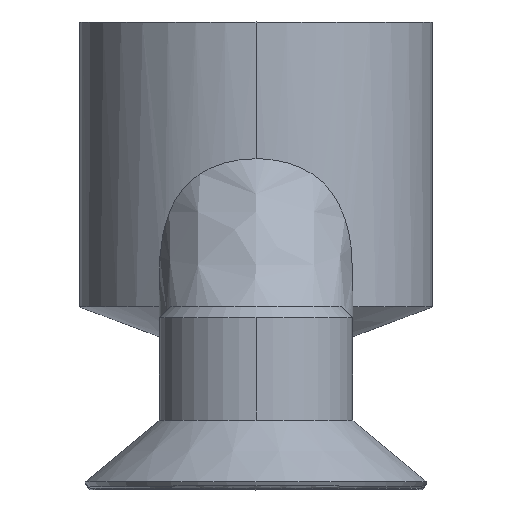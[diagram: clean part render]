
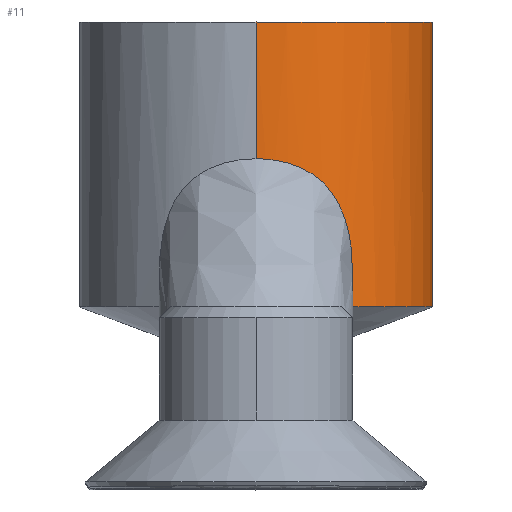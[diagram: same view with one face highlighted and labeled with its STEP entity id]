
A CAD part, top view. The second image highlights one B-rep face of the part: STEP entity #11.
In plain terms, the highlighted cylindrical face has radius 7.75 mm (diameter 15.5 mm), a partial arc.
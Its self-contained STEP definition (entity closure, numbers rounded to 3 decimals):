
#11 = ADVANCED_FACE ( 'NONE', ( #1096 ), #404, .T. ) ;
#36 = VERTEX_POINT ( 'NONE', #908 ) ;
#46 = DIRECTION ( 'NONE',  ( 0., 1., 0. ) ) ;
#76 = B_SPLINE_CURVE_WITH_KNOTS ( 'NONE', 3,
 ( #1015, #1002, #739, #663, #184, #660, #641, #1675, #1692, #1757, #902, #1652, #1649, #1637, #813, #779, #1618, #1601, #1558, #1547 ),
 .UNSPECIFIED., .F., .F.,
 ( 4, 2, 2, 2, 2, 2, 2, 2, 2, 4 ),
 ( 0., 0.002, 0.003, 0.003, 0.004, 0.005, 0.005, 0.006, 0.007, 0.008 ),
 .UNSPECIFIED. ) ;
#85 = DIRECTION ( 'NONE',  ( 0., 0., -1. ) ) ;
#120 = DIRECTION ( 'NONE',  ( 0., -1., 0. ) ) ;
#124 = LINE ( 'NONE', #1157, #409 ) ;
#138 = B_SPLINE_CURVE_WITH_KNOTS ( 'NONE', 3,
 ( #1422, #1431, #1038, #963, #1399, #856, #881, #925, #953, #1097, #1392, #1382, #1371, #1360, #1351, #1347, #1326, #1287, #1242, #819, #875, #909 ),
 .UNSPECIFIED., .F., .F.,
 ( 4, 2, 2, 2, 2, 2, 2, 2, 2, 2, 4 ),
 ( 0., 0.001, 0.001, 0.002, 0.003, 0.003, 0.004, 0.005, 0.006, 0.007, 0.008 ),
 .UNSPECIFIED. ) ;
#184 = CARTESIAN_POINT ( 'NONE',  ( 3.913, 11.877, 6.691 ) ) ;
#230 = AXIS2_PLACEMENT_3D ( 'NONE', #1784, #1564, #1689 ) ;
#238 = CIRCLE ( 'NONE', #922, 7.75 ) ;
#253 = EDGE_CURVE ( 'NONE', #941, #1501, #588, .T. ) ;
#255 = CARTESIAN_POINT ( 'NONE',  ( 4.25, 6.185, 6.481 ) ) ;
#300 = EDGE_CURVE ( 'NONE', #643, #1566, #1271, .T. ) ;
#341 = AXIS2_PLACEMENT_3D ( 'NONE', #1252, #1680, #85 ) ;
#354 = DIRECTION ( 'NONE',  ( 0., -1., 0. ) ) ;
#394 = CARTESIAN_POINT ( 'NONE',  ( 4.25, 9.332, 6.481 ) ) ;
#404 = CYLINDRICAL_SURFACE ( 'NONE', #341, 7.75 ) ;
#409 = VECTOR ( 'NONE', #1672, 1000. ) ;
#441 = CARTESIAN_POINT ( 'NONE',  ( 0., 14.495, 7.75 ) ) ;
#482 = VECTOR ( 'NONE', #120, 1000. ) ;
#485 = ORIENTED_EDGE ( 'NONE', *, *, #1771, .F. ) ;
#520 = EDGE_CURVE ( 'NONE', #699, #686, #76, .T. ) ;
#558 = EDGE_CURVE ( 'NONE', #1501, #643, #138, .T. ) ;
#588 = LINE ( 'NONE', #617, #885 ) ;
#617 = CARTESIAN_POINT ( 'NONE',  ( 0., 20.5, -7.75 ) ) ;
#622 = EDGE_CURVE ( 'NONE', #907, #686, #124, .T. ) ;
#641 = CARTESIAN_POINT ( 'NONE',  ( 3.667, 12.459, 6.828 ) ) ;
#643 = VERTEX_POINT ( 'NONE', #1460 ) ;
#660 = CARTESIAN_POINT ( 'NONE',  ( 3.734, 12.317, 6.791 ) ) ;
#663 = CARTESIAN_POINT ( 'NONE',  ( 4.003, 11.566, 6.636 ) ) ;
#686 = VERTEX_POINT ( 'NONE', #441 ) ;
#699 = VERTEX_POINT ( 'NONE', #394 ) ;
#700 = EDGE_CURVE ( 'NONE', #36, #699, #1390, .T. ) ;
#739 = CARTESIAN_POINT ( 'NONE',  ( 4.204, 10.624, 6.513 ) ) ;
#742 = CARTESIAN_POINT ( 'NONE',  ( 0., 14.495, -7.75 ) ) ;
#753 = CARTESIAN_POINT ( 'NONE',  ( 4.25, 8., -6.481 ) ) ;
#779 = CARTESIAN_POINT ( 'NONE',  ( 1.595, 14.257, 7.59 ) ) ;
#808 = ORIENTED_EDGE ( 'NONE', *, *, #300, .F. ) ;
#813 = CARTESIAN_POINT ( 'NONE',  ( 2.031, 14.073, 7.481 ) ) ;
#819 = CARTESIAN_POINT ( 'NONE',  ( 4.238, 9.982, -6.489 ) ) ;
#851 = ORIENTED_EDGE ( 'NONE', *, *, #558, .F. ) ;
#856 = CARTESIAN_POINT ( 'NONE',  ( 1.581, 14.252, -7.589 ) ) ;
#875 = CARTESIAN_POINT ( 'NONE',  ( 4.25, 9.658, -6.481 ) ) ;
#881 = CARTESIAN_POINT ( 'NONE',  ( 1.733, 14.199, -7.555 ) ) ;
#885 = VECTOR ( 'NONE', #354, 1000. ) ;
#902 = CARTESIAN_POINT ( 'NONE',  ( 2.943, 13.471, 7.174 ) ) ;
#907 = VERTEX_POINT ( 'NONE', #1141 ) ;
#908 = CARTESIAN_POINT ( 'NONE',  ( 4.25, 8., 6.481 ) ) ;
#909 = CARTESIAN_POINT ( 'NONE',  ( 4.25, 9.332, -6.481 ) ) ;
#922 = AXIS2_PLACEMENT_3D ( 'NONE', #1193, #1091, #931 ) ;
#925 = CARTESIAN_POINT ( 'NONE',  ( 2.169, 14.015, -7.446 ) ) ;
#931 = DIRECTION ( 'NONE',  ( 0., 0., -1. ) ) ;
#941 = VERTEX_POINT ( 'NONE', #1085 ) ;
#953 = CARTESIAN_POINT ( 'NONE',  ( 2.438, 13.862, -7.361 ) ) ;
#963 = CARTESIAN_POINT ( 'NONE',  ( 1.118, 14.379, -7.671 ) ) ;
#1002 = CARTESIAN_POINT ( 'NONE',  ( 4.25, 9.982, 6.481 ) ) ;
#1015 = CARTESIAN_POINT ( 'NONE',  ( 4.25, 9.332, 6.481 ) ) ;
#1038 = CARTESIAN_POINT ( 'NONE',  ( 0.648, 14.466, -7.729 ) ) ;
#1085 = CARTESIAN_POINT ( 'NONE',  ( 0., 20.5, -7.75 ) ) ;
#1091 = DIRECTION ( 'NONE',  ( 0., 1., 0. ) ) ;
#1096 = FACE_OUTER_BOUND ( 'NONE', #1708, .T. ) ;
#1097 = CARTESIAN_POINT ( 'NONE',  ( 2.809, 13.576, -7.224 ) ) ;
#1099 = EDGE_CURVE ( 'NONE', #1566, #36, #1335, .T. ) ;
#1141 = CARTESIAN_POINT ( 'NONE',  ( 0., 20.5, 7.75 ) ) ;
#1157 = CARTESIAN_POINT ( 'NONE',  ( 0., 20.5, 7.75 ) ) ;
#1193 = CARTESIAN_POINT ( 'NONE',  ( 0., 20.5, 0. ) ) ;
#1242 = CARTESIAN_POINT ( 'NONE',  ( 4.181, 10.626, -6.526 ) ) ;
#1252 = CARTESIAN_POINT ( 'NONE',  ( 0., 20.5, 0. ) ) ;
#1271 = LINE ( 'NONE', #1770, #482 ) ;
#1287 = CARTESIAN_POINT ( 'NONE',  ( 4.136, 10.947, -6.555 ) ) ;
#1293 = ORIENTED_EDGE ( 'NONE', *, *, #520, .F. ) ;
#1326 = CARTESIAN_POINT ( 'NONE',  ( 4., 11.579, -6.638 ) ) ;
#1335 = CIRCLE ( 'NONE', #230, 7.75 ) ;
#1339 = VECTOR ( 'NONE', #46, 1000. ) ;
#1347 = CARTESIAN_POINT ( 'NONE',  ( 3.91, 11.885, -6.692 ) ) ;
#1351 = CARTESIAN_POINT ( 'NONE',  ( 3.671, 12.47, -6.827 ) ) ;
#1360 = CARTESIAN_POINT ( 'NONE',  ( 3.519, 12.753, -6.908 ) ) ;
#1371 = CARTESIAN_POINT ( 'NONE',  ( 3.243, 13.129, -7.04 ) ) ;
#1382 = CARTESIAN_POINT ( 'NONE',  ( 3.143, 13.248, -7.085 ) ) ;
#1390 = LINE ( 'NONE', #255, #1339 ) ;
#1392 = CARTESIAN_POINT ( 'NONE',  ( 2.927, 13.471, -7.177 ) ) ;
#1399 = CARTESIAN_POINT ( 'NONE',  ( 1.274, 14.342, -7.646 ) ) ;
#1422 = CARTESIAN_POINT ( 'NONE',  ( 0., 14.495, -7.75 ) ) ;
#1431 = CARTESIAN_POINT ( 'NONE',  ( 0.327, 14.495, -7.75 ) ) ;
#1460 = CARTESIAN_POINT ( 'NONE',  ( 4.25, 9.332, -6.481 ) ) ;
#1501 = VERTEX_POINT ( 'NONE', #742 ) ;
#1547 = CARTESIAN_POINT ( 'NONE',  ( 0., 14.495, 7.75 ) ) ;
#1553 = ORIENTED_EDGE ( 'NONE', *, *, #1099, .F. ) ;
#1558 = CARTESIAN_POINT ( 'NONE',  ( 0.327, 14.495, 7.75 ) ) ;
#1564 = DIRECTION ( 'NONE',  ( 0., -1., 0. ) ) ;
#1566 = VERTEX_POINT ( 'NONE', #753 ) ;
#1569 = ORIENTED_EDGE ( 'NONE', *, *, #622, .T. ) ;
#1601 = CARTESIAN_POINT ( 'NONE',  ( 0.652, 14.466, 7.729 ) ) ;
#1610 = ORIENTED_EDGE ( 'NONE', *, *, #253, .F. ) ;
#1618 = CARTESIAN_POINT ( 'NONE',  ( 1.283, 14.348, 7.65 ) ) ;
#1637 = CARTESIAN_POINT ( 'NONE',  ( 2.171, 14.003, 7.441 ) ) ;
#1649 = CARTESIAN_POINT ( 'NONE',  ( 2.442, 13.846, 7.356 ) ) ;
#1652 = CARTESIAN_POINT ( 'NONE',  ( 2.574, 13.758, 7.311 ) ) ;
#1672 = DIRECTION ( 'NONE',  ( 0., -1., 0. ) ) ;
#1675 = CARTESIAN_POINT ( 'NONE',  ( 3.516, 12.736, 6.907 ) ) ;
#1680 = DIRECTION ( 'NONE',  ( 0., -1., 0. ) ) ;
#1689 = DIRECTION ( 'NONE',  ( 0., 0., -1. ) ) ;
#1691 = ORIENTED_EDGE ( 'NONE', *, *, #700, .F. ) ;
#1692 = CARTESIAN_POINT ( 'NONE',  ( 3.432, 12.87, 6.949 ) ) ;
#1708 = EDGE_LOOP ( 'NONE', ( #485, #1569, #1293, #1691, #1553, #808, #851, #1610 ) ) ;
#1757 = CARTESIAN_POINT ( 'NONE',  ( 3.156, 13.249, 7.081 ) ) ;
#1770 = CARTESIAN_POINT ( 'NONE',  ( 4.25, 6.185, -6.481 ) ) ;
#1771 = EDGE_CURVE ( 'NONE', #907, #941, #238, .T. ) ;
#1784 = CARTESIAN_POINT ( 'NONE',  ( 0., 8., 0. ) ) ;
